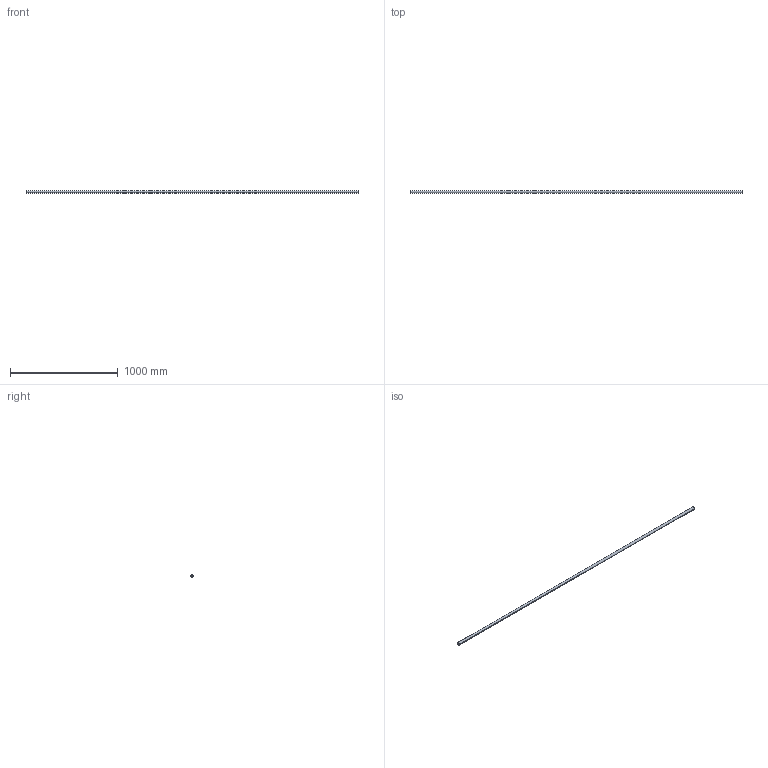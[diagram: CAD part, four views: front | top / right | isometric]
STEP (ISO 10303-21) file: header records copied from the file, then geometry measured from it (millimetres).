
FILE_DESCRIPTION (( 'STEP AP214' ), '1' );
FILE_NAME ('CCJ029-REP.210 - LISSE PLANCHER INFERIEUR C1-C2.STEP', '2024-01-10T14:55:17', ( '' ), ( '' ), 'SwSTEP 2.0', 'SolidWorks 2021', '' );
FILE_SCHEMA (( 'AUTOMOTIVE_DESIGN' ));
Length unit declared in the file: millimetre
Products named in the file (1): CCJ029-REP.210 - LISSE PLANCHER INFERIEUR C1-C2
Bounding box: 3075 x 26.9 x 26.9 mm (x, y, z)
Volume: 546585.3 mm3; surface area: 475647.1 mm2
Topology: 1 solids, 1 shells, 6 faces, 12 edges, 8 vertices
Faces by surface type: cylinder 4, plane 2
Entity records: 202 total; most frequent: DIRECTION 34, CARTESIAN_POINT 27, ORIENTED_EDGE 24, AXIS2_PLACEMENT_3D 15, EDGE_CURVE 12, EDGE_LOOP 8, CIRCLE 8, VERTEX_POINT 8
